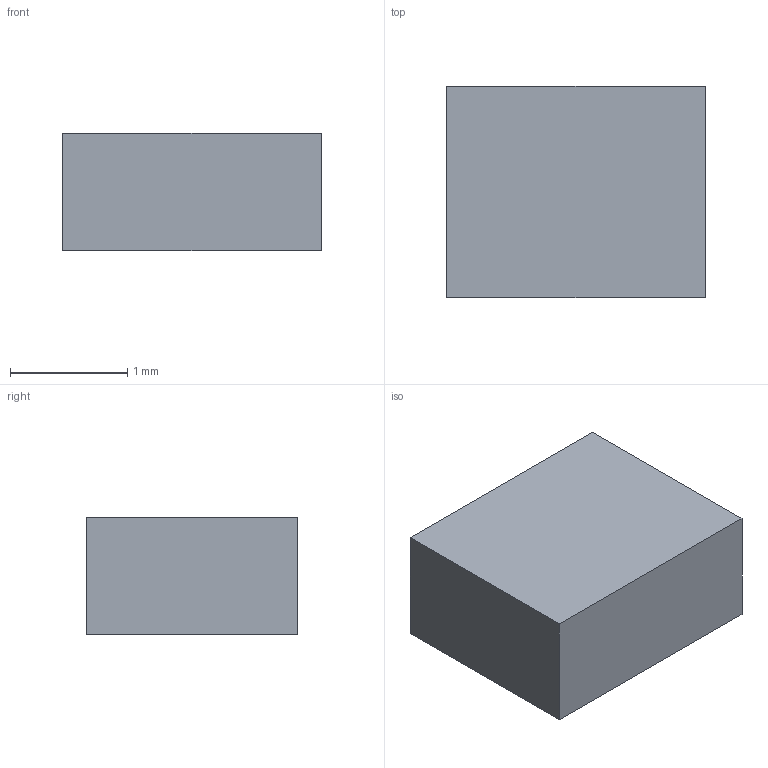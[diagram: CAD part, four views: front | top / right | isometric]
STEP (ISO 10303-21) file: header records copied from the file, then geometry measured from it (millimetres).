
FILE_DESCRIPTION(('Open CASCADE Model'),'2;1');
FILE_NAME('Open CASCADE Shape Model','2026-09-17T14:57:39',('Author'),( 'Open CASCADE'),'Open CASCADE STEP processor 7.8','Open CASCADE 7.8' ,'Unknown');
FILE_SCHEMA(('AUTOMOTIVE_DESIGN { 1 0 10303 214 1 1 1 1 }'));
Length unit declared in the file: millimetre
Products named in the file (1): Open CASCADE STEP translator 7.8 16
Bounding box: 2.2 x 1.8 x 1 mm (x, y, z)
Volume: 4 mm3; surface area: 15.9 mm2
Topology: 1 solids, 1 shells, 6 faces, 12 edges, 8 vertices
Faces by surface type: plane 6
Entity records: 322 total; most frequent: CARTESIAN_POINT 51, DIRECTION 50, LINE 36, VECTOR 36, ORIENTED_EDGE 24, PCURVE 24, DEFINITIONAL_REPRESENTATION 24, EDGE_CURVE 12
